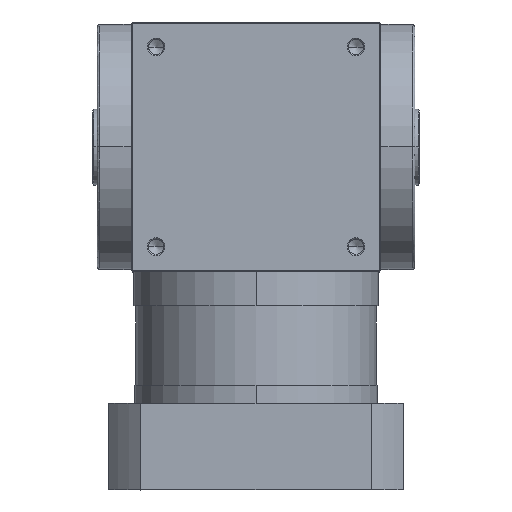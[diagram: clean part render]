
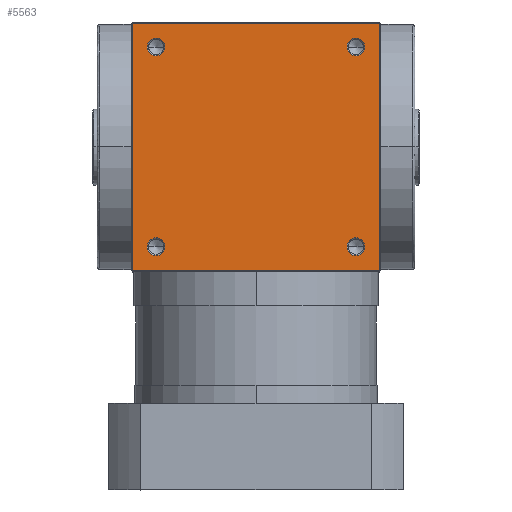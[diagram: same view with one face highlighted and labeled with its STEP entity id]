
A CAD part, top view. The second image highlights one B-rep face of the part: STEP entity #5563.
In plain terms, the highlighted planar face has unit normal (0, 0, 1).
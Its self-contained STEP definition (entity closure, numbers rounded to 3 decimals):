
#156 = EDGE_LOOP ( 'NONE', ( #5246, #3541 ) ) ;
#195 = ORIENTED_EDGE ( 'NONE', *, *, #729, .T. ) ;
#214 = EDGE_CURVE ( 'NONE', #2654, #4282, #9322, .T. ) ;
#228 = DIRECTION ( 'NONE',  ( -1., 0., 0. ) ) ;
#322 = CARTESIAN_POINT ( 'NONE',  ( 44., 44., 55. ) ) ;
#328 = DIRECTION ( 'NONE',  ( 0., 0., -1. ) ) ;
#415 = DIRECTION ( 'NONE',  ( 0., 0., 1. ) ) ;
#495 = CARTESIAN_POINT ( 'NONE',  ( 40.1, 44., 55. ) ) ;
#508 = CARTESIAN_POINT ( 'NONE',  ( 54.5, 0., 55. ) ) ;
#527 = CARTESIAN_POINT ( 'NONE',  ( -54.5, -54.5, 55. ) ) ;
#536 = LINE ( 'NONE', #2292, #2595 ) ;
#583 = VERTEX_POINT ( 'NONE', #3361 ) ;
#603 = EDGE_CURVE ( 'NONE', #4081, #583, #9216, .T. ) ;
#729 = EDGE_CURVE ( 'NONE', #1536, #1087, #1156, .T. ) ;
#792 = CARTESIAN_POINT ( 'NONE',  ( -44., -44., 55. ) ) ;
#803 = VECTOR ( 'NONE', #1273, 1000. ) ;
#848 = FACE_BOUND ( 'NONE', #7119, .T. ) ;
#957 = VERTEX_POINT ( 'NONE', #5210 ) ;
#1083 = DIRECTION ( 'NONE',  ( 1., 0., 0. ) ) ;
#1087 = VERTEX_POINT ( 'NONE', #2877 ) ;
#1156 = LINE ( 'NONE', #5775, #803 ) ;
#1234 = CIRCLE ( 'NONE', #1559, 3.9 ) ;
#1273 = DIRECTION ( 'NONE',  ( -1., 0., 0. ) ) ;
#1280 = DIRECTION ( 'NONE',  ( 0., -1., 0. ) ) ;
#1404 = EDGE_CURVE ( 'NONE', #5040, #957, #9421, .T. ) ;
#1528 = CIRCLE ( 'NONE', #9317, 3.9 ) ;
#1536 = VERTEX_POINT ( 'NONE', #7341 ) ;
#1539 = CARTESIAN_POINT ( 'NONE',  ( 44., -44., 55. ) ) ;
#1559 = AXIS2_PLACEMENT_3D ( 'NONE', #1539, #6792, #2313 ) ;
#1574 = DIRECTION ( 'NONE',  ( 0., -1., 0. ) ) ;
#1786 = EDGE_LOOP ( 'NONE', ( #9693, #8475 ) ) ;
#1838 = VERTEX_POINT ( 'NONE', #527 ) ;
#1981 = EDGE_CURVE ( 'NONE', #1536, #9259, #4152, .T. ) ;
#2180 = ORIENTED_EDGE ( 'NONE', *, *, #1981, .F. ) ;
#2292 = CARTESIAN_POINT ( 'NONE',  ( -54.5, 0., 55. ) ) ;
#2313 = DIRECTION ( 'NONE',  ( 0., -1., 0. ) ) ;
#2526 = AXIS2_PLACEMENT_3D ( 'NONE', #4146, #9288, #4841 ) ;
#2527 = EDGE_CURVE ( 'NONE', #9259, #1838, #2740, .T. ) ;
#2595 = VECTOR ( 'NONE', #6767, 1000. ) ;
#2598 = ORIENTED_EDGE ( 'NONE', *, *, #5017, .F. ) ;
#2614 = EDGE_CURVE ( 'NONE', #583, #4081, #5254, .T. ) ;
#2654 = VERTEX_POINT ( 'NONE', #9532 ) ;
#2664 = FACE_OUTER_BOUND ( 'NONE', #9267, .T. ) ;
#2740 = LINE ( 'NONE', #6237, #6054 ) ;
#2877 = CARTESIAN_POINT ( 'NONE',  ( -54.5, 54.5, 55. ) ) ;
#2911 = FACE_BOUND ( 'NONE', #156, .T. ) ;
#3136 = VERTEX_POINT ( 'NONE', #9574 ) ;
#3361 = CARTESIAN_POINT ( 'NONE',  ( 47.9, 44., 55. ) ) ;
#3517 = CIRCLE ( 'NONE', #7469, 3.9 ) ;
#3541 = ORIENTED_EDGE ( 'NONE', *, *, #3797, .F. ) ;
#3797 = EDGE_CURVE ( 'NONE', #957, #5040, #3517, .T. ) ;
#3951 = CARTESIAN_POINT ( 'NONE',  ( 44., -44., 55. ) ) ;
#3989 = DIRECTION ( 'NONE',  ( 0., 0., 1. ) ) ;
#4023 = AXIS2_PLACEMENT_3D ( 'NONE', #322, #5593, #1083 ) ;
#4081 = VERTEX_POINT ( 'NONE', #495 ) ;
#4118 = ORIENTED_EDGE ( 'NONE', *, *, #8023, .F. ) ;
#4146 = CARTESIAN_POINT ( 'NONE',  ( -44., 44., 55. ) ) ;
#4152 = LINE ( 'NONE', #508, #4268 ) ;
#4259 = CARTESIAN_POINT ( 'NONE',  ( -44., 47.9, 55. ) ) ;
#4268 = VECTOR ( 'NONE', #1280, 1000. ) ;
#4282 = VERTEX_POINT ( 'NONE', #6833 ) ;
#4543 = DIRECTION ( 'NONE',  ( 0., 0., 1. ) ) ;
#4663 = DIRECTION ( 'NONE',  ( 0., -1., 0. ) ) ;
#4818 = PLANE ( 'NONE',  #8732 ) ;
#4841 = DIRECTION ( 'NONE',  ( 0., -1., 0. ) ) ;
#4847 = CARTESIAN_POINT ( 'NONE',  ( 0., 0., 55. ) ) ;
#4926 = EDGE_LOOP ( 'NONE', ( #7902, #2598 ) ) ;
#4944 = CARTESIAN_POINT ( 'NONE',  ( 44., 44., 55. ) ) ;
#5017 = EDGE_CURVE ( 'NONE', #4282, #2654, #1234, .T. ) ;
#5040 = VERTEX_POINT ( 'NONE', #5298 ) ;
#5210 = CARTESIAN_POINT ( 'NONE',  ( -44., -40.1, 55. ) ) ;
#5246 = ORIENTED_EDGE ( 'NONE', *, *, #1404, .F. ) ;
#5254 = CIRCLE ( 'NONE', #7138, 3.9 ) ;
#5298 = CARTESIAN_POINT ( 'NONE',  ( -44., -47.9, 55. ) ) ;
#5563 = ADVANCED_FACE ( 'NONE', ( #848, #6629, #2911, #7579, #2664 ), #4818, .F. ) ;
#5593 = DIRECTION ( 'NONE',  ( 0., 0., 1. ) ) ;
#5597 = DIRECTION ( 'NONE',  ( -1., 0., 0. ) ) ;
#5632 = VERTEX_POINT ( 'NONE', #4259 ) ;
#5685 = DIRECTION ( 'NONE',  ( 1., 0., 0. ) ) ;
#5775 = CARTESIAN_POINT ( 'NONE',  ( 0., 54.5, 55. ) ) ;
#5808 = EDGE_CURVE ( 'NONE', #5632, #3136, #1528, .T. ) ;
#6054 = VECTOR ( 'NONE', #228, 1000. ) ;
#6066 = DIRECTION ( 'NONE',  ( 0., 0., 1. ) ) ;
#6237 = CARTESIAN_POINT ( 'NONE',  ( 0., -54.5, 55. ) ) ;
#6374 = AXIS2_PLACEMENT_3D ( 'NONE', #8984, #4543, #9692 ) ;
#6629 = FACE_BOUND ( 'NONE', #1786, .T. ) ;
#6711 = ORIENTED_EDGE ( 'NONE', *, *, #2527, .F. ) ;
#6767 = DIRECTION ( 'NONE',  ( 0., 1., 0. ) ) ;
#6792 = DIRECTION ( 'NONE',  ( 0., 0., 1. ) ) ;
#6833 = CARTESIAN_POINT ( 'NONE',  ( 44., -40.1, 55. ) ) ;
#7032 = ORIENTED_EDGE ( 'NONE', *, *, #5808, .F. ) ;
#7117 = ORIENTED_EDGE ( 'NONE', *, *, #7809, .F. ) ;
#7119 = EDGE_LOOP ( 'NONE', ( #4118, #7032 ) ) ;
#7138 = AXIS2_PLACEMENT_3D ( 'NONE', #4944, #415, #5685 ) ;
#7210 = CARTESIAN_POINT ( 'NONE',  ( 54.5, -54.5, 55. ) ) ;
#7341 = CARTESIAN_POINT ( 'NONE',  ( 54.5, 54.5, 55. ) ) ;
#7469 = AXIS2_PLACEMENT_3D ( 'NONE', #792, #6066, #1574 ) ;
#7579 = FACE_BOUND ( 'NONE', #4926, .T. ) ;
#7809 = EDGE_CURVE ( 'NONE', #1838, #1087, #536, .T. ) ;
#7902 = ORIENTED_EDGE ( 'NONE', *, *, #214, .F. ) ;
#8023 = EDGE_CURVE ( 'NONE', #3136, #5632, #8863, .T. ) ;
#8419 = CARTESIAN_POINT ( 'NONE',  ( -44., 44., 55. ) ) ;
#8475 = ORIENTED_EDGE ( 'NONE', *, *, #603, .F. ) ;
#8550 = AXIS2_PLACEMENT_3D ( 'NONE', #3951, #9120, #4663 ) ;
#8732 = AXIS2_PLACEMENT_3D ( 'NONE', #4847, #328, #5597 ) ;
#8863 = CIRCLE ( 'NONE', #2526, 3.9 ) ;
#8984 = CARTESIAN_POINT ( 'NONE',  ( -44., -44., 55. ) ) ;
#9120 = DIRECTION ( 'NONE',  ( 0., 0., 1. ) ) ;
#9150 = DIRECTION ( 'NONE',  ( 0., -1., 0. ) ) ;
#9216 = CIRCLE ( 'NONE', #4023, 3.9 ) ;
#9259 = VERTEX_POINT ( 'NONE', #7210 ) ;
#9267 = EDGE_LOOP ( 'NONE', ( #6711, #2180, #195, #7117 ) ) ;
#9288 = DIRECTION ( 'NONE',  ( 0., 0., 1. ) ) ;
#9317 = AXIS2_PLACEMENT_3D ( 'NONE', #8419, #3989, #9150 ) ;
#9322 = CIRCLE ( 'NONE', #8550, 3.9 ) ;
#9421 = CIRCLE ( 'NONE', #6374, 3.9 ) ;
#9532 = CARTESIAN_POINT ( 'NONE',  ( 44., -47.9, 55. ) ) ;
#9574 = CARTESIAN_POINT ( 'NONE',  ( -44., 40.1, 55. ) ) ;
#9692 = DIRECTION ( 'NONE',  ( 0., -1., 0. ) ) ;
#9693 = ORIENTED_EDGE ( 'NONE', *, *, #2614, .F. ) ;
